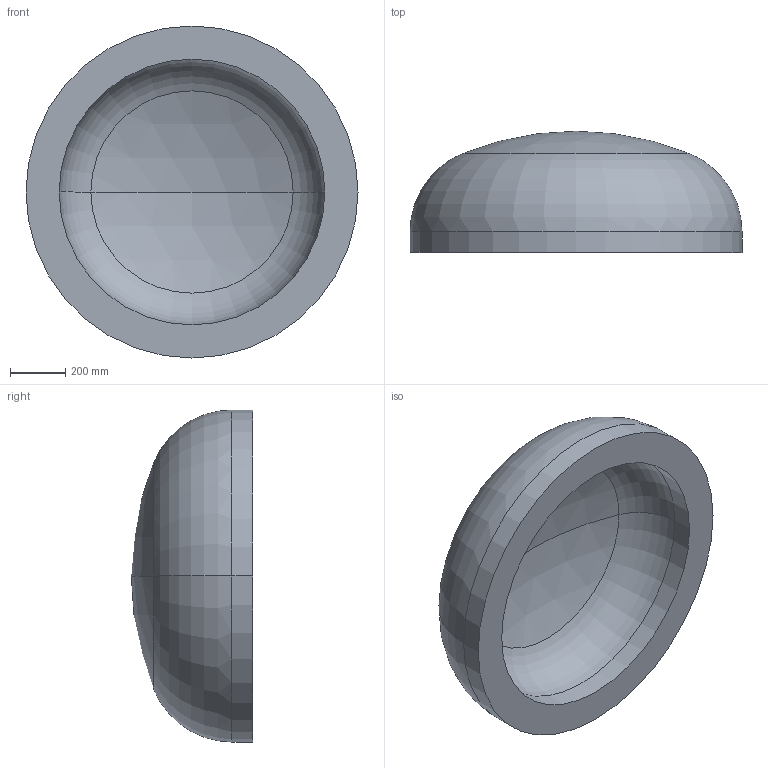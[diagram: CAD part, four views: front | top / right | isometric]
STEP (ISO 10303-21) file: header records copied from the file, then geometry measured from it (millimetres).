
FILE_DESCRIPTION (( 'STEP AP203' ), '1' );
FILE_NAME ('DIN 28013 Korbbogenform_-_Boden DIN 28013 - 1200 x 75 - I - s=120.step', '2016-07-01T09:40:25', ( '' ), ( '' ), 'SwSTEP 2.0', 'SolidWorks 2013', '' );
FILE_SCHEMA (( 'CONFIG_CONTROL_DESIGN' ));
Length unit declared in the file: millimetre
Products named in the file (1): DIN 28013 Korbbogenform_-_Boden DIN 28013 - 1200 x 75 - I - s=120
Bounding box: 1200 x 438.34 x 1200 mm (x, y, z)
Volume: 196663288.4 mm3; surface area: 3715030.6 mm2
Topology: 1 solids, 1 shells, 13 faces, 24 edges, 14 vertices
Faces by surface type: torus 4, cylinder 4, sphere 4, plane 1
Entity records: 407 total; most frequent: DIRECTION 72, CARTESIAN_POINT 52, ORIENTED_EDGE 48, AXIS2_PLACEMENT_3D 34, EDGE_CURVE 24, CIRCLE 20, EDGE_LOOP 14, VERTEX_POINT 14
